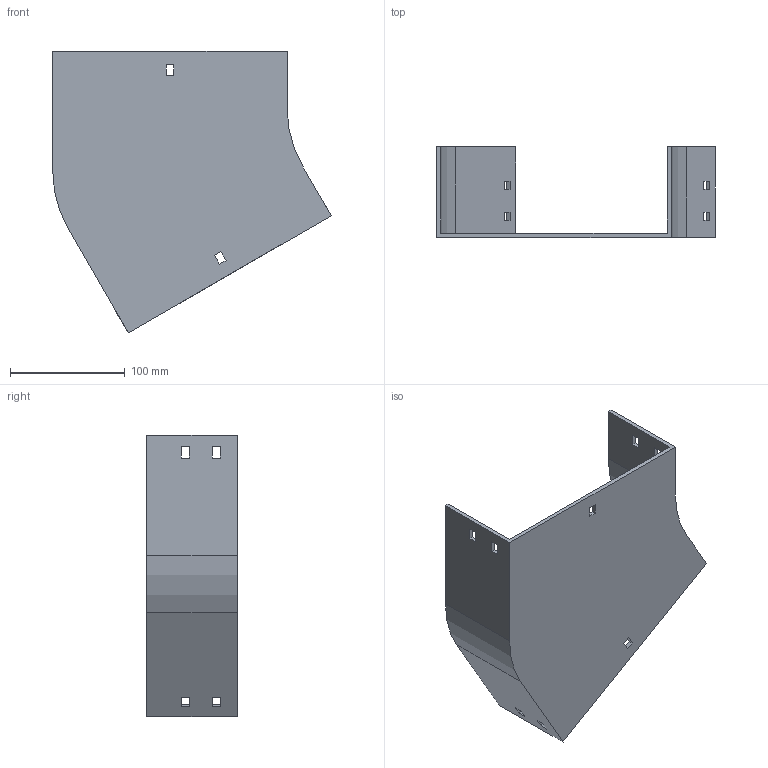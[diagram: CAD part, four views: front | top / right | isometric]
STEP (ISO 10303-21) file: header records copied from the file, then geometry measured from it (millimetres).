
FILE_DESCRIPTION (( 'STEP AP214' ), '1' );
FILE_NAME ('12B1C200.step', '2025-02-21T09:35:31', ( '' ), ( '' ), 'SwSTEP 2.0', 'SolidWorks 2023', '' );
FILE_SCHEMA (( 'AUTOMOTIVE_DESIGN' ));
Length unit declared in the file: millimetre
Products named in the file (1): 12B1C200
Bounding box: 242.4 x 79 x 245.3 mm (x, y, z)
Volume: 255732.9 mm3; surface area: 151236.2 mm2
Topology: 1 solids, 1 shells, 58 faces, 168 edges, 112 vertices
Faces by surface type: plane 54, cylinder 4
Entity records: 1943 total; most frequent: CARTESIAN_POINT 339, ORIENTED_EDGE 336, DIRECTION 294, EDGE_CURVE 168, VECTOR 160, LINE 160, VERTEX_POINT 112, EDGE_LOOP 78
